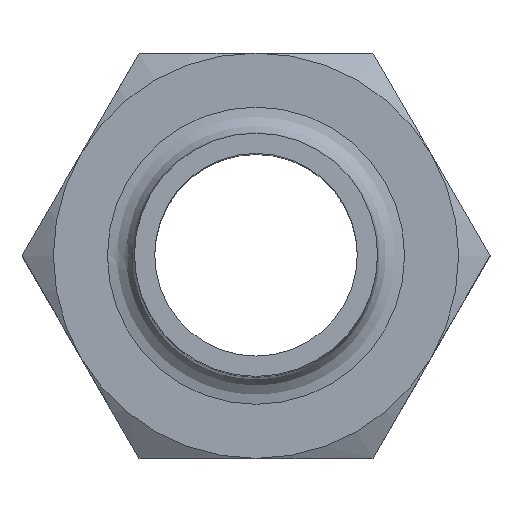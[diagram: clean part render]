
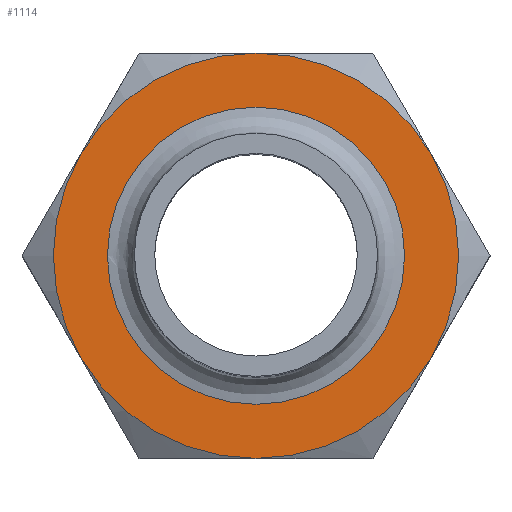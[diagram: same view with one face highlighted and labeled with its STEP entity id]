
A CAD part, top view. The second image highlights one B-rep face of the part: STEP entity #1114.
In plain terms, the highlighted planar face has unit normal (0, 0, 1).
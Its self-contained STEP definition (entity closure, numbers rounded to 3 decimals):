
#552=CARTESIAN_POINT('',(-12.99,7.5,-6.));
#553=VERTEX_POINT('',#552);
#567=CARTESIAN_POINT('',(-12.99,-7.5,-6.));
#568=VERTEX_POINT('',#567);
#582=CARTESIAN_POINT('',(0.0,0.0,-6.));
#583=DIRECTION('',(0.0,0.0,1.0));
#584=DIRECTION('',(1.0,0.0,0.0));
#585=AXIS2_PLACEMENT_3D('',#582,#583,#584);
#586=CIRCLE('',#585,15.0);
#587=EDGE_CURVE('',#553,#568,#586,.T.);
#599=CARTESIAN_POINT('',(0.,15.,-6.));
#600=VERTEX_POINT('',#599);
#627=CARTESIAN_POINT('',(0.0,0.0,-6.));
#628=DIRECTION('',(0.0,0.0,1.0));
#629=DIRECTION('',(1.0,0.0,0.0));
#630=AXIS2_PLACEMENT_3D('',#627,#628,#629);
#631=CIRCLE('',#630,15.0);
#632=EDGE_CURVE('',#600,#553,#631,.T.);
#644=CARTESIAN_POINT('',(12.99,7.5,-6.));
#645=VERTEX_POINT('',#644);
#672=CARTESIAN_POINT('',(0.0,0.0,-6.));
#673=DIRECTION('',(0.0,0.0,1.0));
#674=DIRECTION('',(1.0,0.0,0.0));
#675=AXIS2_PLACEMENT_3D('',#672,#673,#674);
#676=CIRCLE('',#675,15.0);
#677=EDGE_CURVE('',#645,#600,#676,.T.);
#702=CARTESIAN_POINT('',(12.99,-7.5,-6.));
#703=VERTEX_POINT('',#702);
#704=CARTESIAN_POINT('',(0.0,0.0,-6.));
#705=DIRECTION('',(0.0,0.0,1.0));
#706=DIRECTION('',(1.0,0.0,0.0));
#707=AXIS2_PLACEMENT_3D('',#704,#705,#706);
#708=CIRCLE('',#707,15.0);
#709=EDGE_CURVE('',#703,#645,#708,.T.);
#747=CARTESIAN_POINT('',(0.0,-15.0,-6.));
#748=VERTEX_POINT('',#747);
#749=CARTESIAN_POINT('',(0.0,0.0,-6.));
#750=DIRECTION('',(0.0,0.0,1.0));
#751=DIRECTION('',(1.0,0.0,0.0));
#752=AXIS2_PLACEMENT_3D('',#749,#750,#751);
#753=CIRCLE('',#752,15.0);
#754=EDGE_CURVE('',#748,#703,#753,.T.);
#792=CARTESIAN_POINT('',(0.0,0.0,-6.));
#793=DIRECTION('',(0.0,0.0,1.0));
#794=DIRECTION('',(1.0,0.0,0.0));
#795=AXIS2_PLACEMENT_3D('',#792,#793,#794);
#796=CIRCLE('',#795,15.0);
#797=EDGE_CURVE('',#568,#748,#796,.T.);
#1055=CARTESIAN_POINT('',(11.0,0.,-6.));
#1056=VERTEX_POINT('',#1055);
#1057=CARTESIAN_POINT('',(0.0,0.0,-6.));
#1058=DIRECTION('',(0.0,0.0,1.0));
#1059=DIRECTION('',(-1.0,0.0,0.0));
#1060=AXIS2_PLACEMENT_3D('',#1057,#1058,#1059);
#1061=CIRCLE('',#1060,11.0);
#1062=EDGE_CURVE('',#1056,#1056,#1061,.T.);
#1098=CARTESIAN_POINT('',(0.,0.,-6.));
#1099=DIRECTION('',(0.0,0.0,1.0));
#1100=DIRECTION('',(1.0,0.0,0.0));
#1101=AXIS2_PLACEMENT_3D('',#1098,#1099,#1100);
#1102=PLANE('',#1101);
#1103=ORIENTED_EDGE('',*,*,#797,.T.);
#1104=ORIENTED_EDGE('',*,*,#754,.T.);
#1105=ORIENTED_EDGE('',*,*,#709,.T.);
#1106=ORIENTED_EDGE('',*,*,#677,.T.);
#1107=ORIENTED_EDGE('',*,*,#632,.T.);
#1108=ORIENTED_EDGE('',*,*,#587,.T.);
#1109=EDGE_LOOP('',(#1103,#1104,#1105,#1106,#1107,#1108));
#1110=FACE_OUTER_BOUND('',#1109,.T.);
#1111=ORIENTED_EDGE('',*,*,#1062,.F.);
#1112=EDGE_LOOP('',(#1111));
#1113=FACE_BOUND('',#1112,.T.);
#1114=ADVANCED_FACE('',(#1110,#1113),#1102,.T.);
